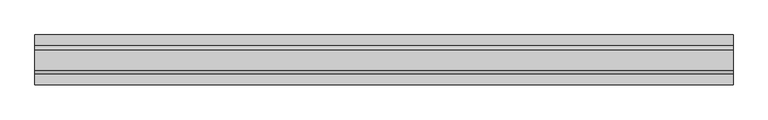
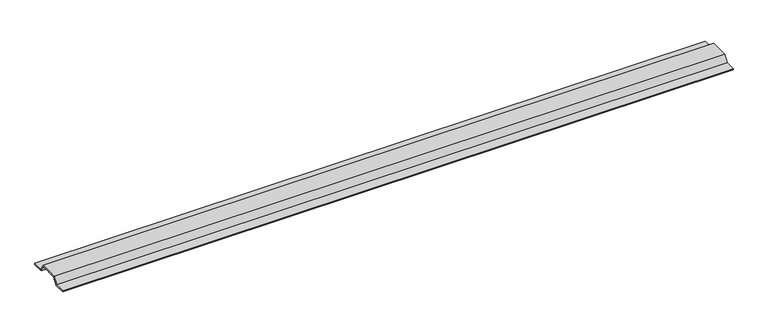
"""IFC4 building model written with IfcOpenShell, lengths in millimetres: beam geometry, B-Deck_Single_Flute_3d_14388 : B-Deck_Single_Flute_3d_14388."""

import ifcopenshell
import ifcopenshell.guid

model = None  # the IFC model being written
_history = None  # IfcOwnerHistory: only IFC2X3 demands one
_inside = {}  # id of a spatial element -> (the spatial element, [elements in it])
_under = {}  # id of a project, library or spatial element -> (it, [spatial elements below it])
_declared = {}  # id of a project -> (the project, [libraries it declares])
_typed = {}  # id of a type object -> (the type object, [elements of that type])
_made_of = {}  # id of a material, layer set ... -> (it, [elements and type objects made of it])


def new_model(schema):
    """Start an empty IFC model of exactly this schema.

    Asked for "IFC4X3", IfcOpenShell would pick the latest addendum, in which some entities
    have other attributes; the version numbers below select the first issue.
    IFC2X3 requires an IfcOwnerHistory on every rooted entity: one is made here for all.
    """
    global model, _history
    if schema == "IFC4X3":
        model = ifcopenshell.file(schema_version=(4, 3, 0, 0))
    else:
        model = ifcopenshell.file(schema=schema)
    _inside.clear()
    _under.clear()
    _declared.clear()
    _typed.clear()
    _made_of.clear()
    _history = None
    if model.schema == "IFC2X3":
        org = make("IfcOrganization", Name="unknown")
        user = make(
            "IfcPersonAndOrganization",
            ThePerson=make("IfcPerson", FamilyName="unknown"),
            TheOrganization=org,
        )
        app = make(
            "IfcApplication",
            ApplicationDeveloper=org,
            Version="unknown",
            ApplicationFullName="unknown",
            ApplicationIdentifier="unknown",
        )
        _history = make(
            "IfcOwnerHistory",
            OwningUser=user,
            OwningApplication=app,
            ChangeAction="ADDED",
            CreationDate=0,
        )
    return model


def make(cls, **values):
    """One entity of the class cls with the attributes given. An attribute that is None is left unset."""
    return model.create_entity(
        cls, **{name: value for name, value in values.items() if value is not None}
    )


def rooted(cls, **values):
    """An entity with a GlobalId (a new one), such as an element, a storey or a relation."""
    return make(cls, GlobalId=ifcopenshell.guid.new(), OwnerHistory=_history, **values)


def si_unit(unit_type, name, prefix=None):
    """IfcSIUnit, for example si_unit("LENGTHUNIT", "METRE", prefix="MILLI")."""
    return make("IfcSIUnit", UnitType=unit_type, Prefix=prefix, Name=name)


def assignment(units):
    """IfcUnitAssignment: the units of a project."""
    return None if units is None else make("IfcUnitAssignment", Units=units)


def point(xyz):
    """IfcCartesianPoint."""
    return None if xyz is None else make("IfcCartesianPoint", Coordinates=xyz)


def direction(xyz):
    """IfcDirection."""
    return None if xyz is None else make("IfcDirection", DirectionRatios=xyz)


def frame(location, z_axis=None, x_axis=None):
    """IfcAxis2Placement3D, a coordinate frame: its origin and axes. An axis left out is left unset."""
    return make(
        "IfcAxis2Placement3D",
        Location=point(location),
        Axis=direction(z_axis),
        RefDirection=direction(x_axis),
    )


def origin():
    """The frame at (0, 0, 0) with its axes left unset."""
    return frame((0.0, 0.0, 0.0))


def place(relative_to, where):
    """IfcLocalPlacement: puts the frame where relative to a parent placement (None: the world)."""
    return make(
        "IfcLocalPlacement", PlacementRelTo=relative_to, RelativePlacement=where
    )


def context(
    kind, dimensions, precision=None, world=None, true_north=None, identifier=None
):
    """IfcGeometricRepresentationContext, for example the 3D "Model" context."""
    return make(
        "IfcGeometricRepresentationContext",
        ContextIdentifier=identifier,
        ContextType=kind,
        CoordinateSpaceDimension=dimensions,
        Precision=precision,
        WorldCoordinateSystem=world,
        TrueNorth=true_north,
    )


def project(units=None, contexts=None):
    """IfcProject with its units and contexts."""
    return rooted(
        "IfcProject",
        Name="project",
        RepresentationContexts=contexts,
        UnitsInContext=assignment(units),
    )


def spatial(cls, under=None, at=None, **own):
    """A site, building, storey or space (cls), placed at a placement, below another one or the project."""
    s = rooted(cls, ObjectPlacement=at, **own)
    if under is not None:
        _under.setdefault(under.id(), (under, []))[1].append(s)
    return s


def polyline(points):
    """IfcPolyline through the points."""
    return make("IfcPolyline", Points=[point(p) for p in points])


def outline(outer, holes=None, kind="AREA"):
    """IfcArbitraryClosedProfileDef: a profile drawn as a closed curve; with holes, ...WithVoids."""
    if holes is None:
        return make("IfcArbitraryClosedProfileDef", ProfileType=kind, OuterCurve=outer)
    return make(
        "IfcArbitraryProfileDefWithVoids",
        ProfileType=kind,
        OuterCurve=outer,
        InnerCurves=holes,
    )


def extrude(swept, where, along, depth):
    """IfcExtrudedAreaSolid: the profile swept, set in the frame where, extruded along a direction by depth."""
    return make(
        "IfcExtrudedAreaSolid",
        SweptArea=swept,
        Position=where,
        ExtrudedDirection=direction(along),
        Depth=depth,
    )


def shape(context_of_items, identifier, shape_type, items):
    """IfcShapeRepresentation: the items that make up one representation, for example the "Body"."""
    return make(
        "IfcShapeRepresentation",
        ContextOfItems=context_of_items,
        RepresentationIdentifier=identifier,
        RepresentationType=shape_type,
        Items=items,
    )


def source(mapping_origin, context_of_items, identifier, shape_type, items):
    """IfcRepresentationMap: a shape defined once, which mapped items show again and again."""
    return make(
        "IfcRepresentationMap",
        MappingOrigin=mapping_origin,
        MappedRepresentation=shape(context_of_items, identifier, shape_type, items),
    )


def transform(
    local_origin,
    x_axis=None,
    y_axis=None,
    z_axis=None,
    scale=None,
    scale2=None,
    scale3=None,
    uniform=True,
):
    """IfcCartesianTransformationOperator3D, or its non-uniform kind. x_axis, y_axis, z_axis: its Axis1, 2, 3."""
    if uniform:
        return make(
            "IfcCartesianTransformationOperator3D",
            Axis1=direction(x_axis),
            Axis2=direction(y_axis),
            LocalOrigin=point(local_origin),
            Scale=scale,
            Axis3=direction(z_axis),
        )
    return make(
        "IfcCartesianTransformationOperator3DnonUniform",
        Axis1=direction(x_axis),
        Axis2=direction(y_axis),
        LocalOrigin=point(local_origin),
        Scale=scale,
        Axis3=direction(z_axis),
        Scale2=scale2,
        Scale3=scale3,
    )


def mapped(mapping_source, mapping_target):
    """IfcMappedItem: shows the shape of a source again, moved by a transform."""
    return make(
        "IfcMappedItem", MappingSource=mapping_source, MappingTarget=mapping_target
    )


def made_of(thing, what):
    """Note that an element or type object is made of a material, layer set ...; save() writes the relation."""
    if what is not None:
        _made_of.setdefault(what.id(), (what, []))[1].append(thing)
    return thing


def element(
    cls,
    number,
    at=None,
    inside=None,
    cuts=None,
    type_object=None,
    material=None,
    context=None,
    identifier="Body",
    shape_type=None,
    held_by="IfcProductDefinitionShape",
    body=None,
    shapes=None,
    **own,
):
    """One element of the class cls, such as IfcWall. Its Tag is "e" and its number.

    at: its placement. inside: the storey or other place that contains it. cuts: it is an
    opening in that element (IfcRelVoidsElement). A single representation is given by context,
    identifier, shape_type and body (its items); several are given by shapes. held_by: the class
    of the entity that holds the representations. save() writes the other relations.
    """
    e = rooted(cls, Tag="e%d" % number, ObjectPlacement=at, **own)
    if body is not None:
        shapes = [shape(context, identifier, shape_type, body)]
    if shapes is not None:
        e.Representation = make(held_by, Representations=shapes)
    if inside is not None:
        _inside.setdefault(inside.id(), (inside, []))[1].append(e)
    if cuts is not None:
        rooted(
            "IfcRelVoidsElement", RelatingBuildingElement=cuts, RelatedOpeningElement=e
        )
    if type_object is not None:
        _typed.setdefault(type_object.id(), (type_object, []))[1].append(e)
    return made_of(e, material)


def aggregate(whole, parts):
    """IfcRelAggregates: a whole, such as a stair, and the parts it consists of."""
    return rooted("IfcRelAggregates", RelatingObject=whole, RelatedObjects=parts)


def save(model, path):
    """Write the relations noted so far, then the file.

    IfcRelAggregates (storeys below a building ...), IfcRelContainedInSpatialStructure (elements
    in a storey), IfcRelDefinesByType, IfcRelAssociatesMaterial and IfcRelDeclares: one each for
    every whole, place, type object, material and project.
    """
    for whole, parts in _under.values():
        aggregate(whole, parts)
    for where, things in _inside.values():
        rooted(
            "IfcRelContainedInSpatialStructure",
            RelatedElements=things,
            RelatingStructure=where,
        )
    for kind, things in _typed.values():
        rooted("IfcRelDefinesByType", RelatedObjects=things, RelatingType=kind)
    for what, things in _made_of.values():
        rooted("IfcRelAssociatesMaterial", RelatedObjects=things, RelatingMaterial=what)
    for by, libraries in _declared.values():
        rooted("IfcRelDeclares", RelatingContext=by, RelatedDefinitions=libraries)
    model.write(path)


def beam_0339d567(model_context):
    return source(origin(), model_context, "Body", "SweptSolid", [
        extrude(outline(polyline([(101.6, 6.35), (101.6, 0.0), (53.9397353, 0.0), (38.0647353, 27.4963066), (-38.0647353, 27.4963066), (-53.9397353, 0.0), (-101.6, 0.0), (-101.6, 6.35), (-57.6059095, 6.35), (-41.7309095, 33.8463066), (41.7309095, 33.8463066), (57.6059095, 6.35), (101.6, 6.35)])), frame((-1422.4, 0.0, 0.0), z_axis=(1.0, 0.0, 0.0), x_axis=(0.0, 1.0, 0.0)), (0.0, 0.0, 1.0), 2844.8),
    ])


if __name__ == "__main__":
    model = new_model("IFC4")
    model_context = context("Model", 3, world=origin())
    ifc_project = project(units=[si_unit("LENGTHUNIT", "METRE", prefix="MILLI")], contexts=[model_context])
    site = spatial("IfcSite", under=ifc_project)
    building = spatial("IfcBuilding", under=site)
    placement = place(None, origin())
    beam_shape = beam_0339d567(model_context)
    element("IfcBeam", 1, ObjectType="B-Deck_Single_Flute_3d_14388 : B-Deck_Single_Flute_3d_14388", at=placement, inside=building, context=model_context, shape_type="MappedRepresentation", body=[
        mapped(beam_shape, transform((0.0, 0.0, 0.0), x_axis=(1.0, 0.0, 0.0), y_axis=(0.0, 1.0, 0.0), z_axis=(0.0, 0.0, 1.0))),
    ])
    save(model, "model.ifc")
